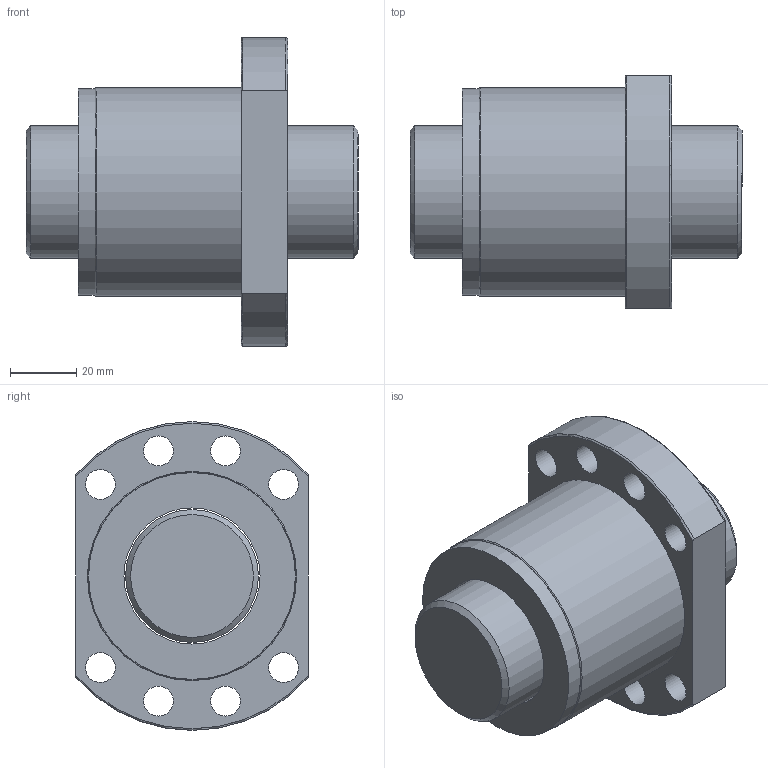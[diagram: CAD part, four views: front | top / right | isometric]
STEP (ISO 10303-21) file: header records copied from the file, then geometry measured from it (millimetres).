
FILE_DESCRIPTION(/* description */ (''),/* implementation_level */ '2;1');
FILE_NAME(/* name */ 'SFS4010',/* time_stamp */ '2007-10-26T11:21:17+08:00',/* author */ (''),/* organization */ (''),/* preprocessor_version */ 'ST-DEVELOPER v9',/* originating_system */ 'UGS - NX 3.0',/* authorisation */ '');
FILE_SCHEMA (('CONFIG_CONTROL_DESIGN'));
Length unit declared in the file: millimetre
Products named in the file (1): jaso37B0hu8d
Bounding box: 100 x 70 x 93 mm (x, y, z)
Volume: 268961.7 mm3; surface area: 56531.3 mm2
Topology: 4 solids, 4 shells, 37 faces, 78 edges, 51 vertices
Faces by surface type: cylinder 18, plane 12, torus 5, cone 2
Full cylindrical faces by diameter (mm): 9 x8, 40 x1, 41 x3, 62.3 x2, 62.5 x1, 63 x1
Entity records: 1168 total; most frequent: CARTESIAN_POINT 292, DIRECTION 170, ORIENTED_EDGE 118, AXIS2_PLACEMENT_3D 81, EDGE_LOOP 80, FACE_BOUND 60, EDGE_CURVE 59, VERTEX_POINT 51
